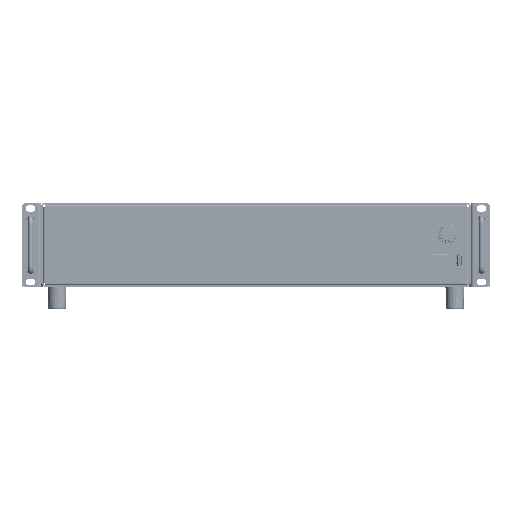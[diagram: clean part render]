
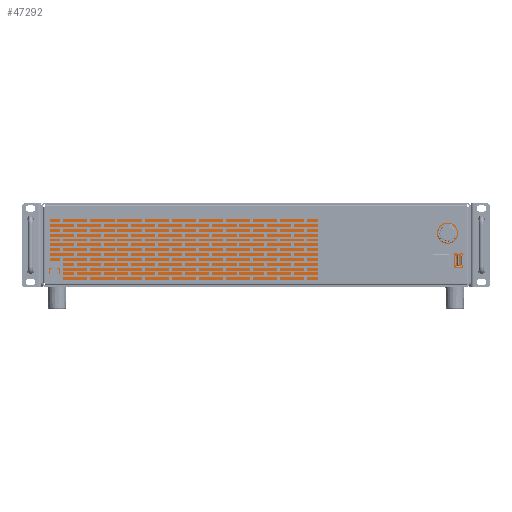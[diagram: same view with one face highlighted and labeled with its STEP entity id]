
A CAD part, front view. The second image highlights one B-rep face of the part: STEP entity #47292.
In plain terms, the highlighted planar face has unit normal (0, -1, 0).
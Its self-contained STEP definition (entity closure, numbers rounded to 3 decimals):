
#47292=ADVANCED_FACE('',(#98366),#98367,.F.);
#98366=FACE_OUTER_BOUND('',#200938,.T.);
#98367=PLANE('',#200939);
#200938=EDGE_LOOP('',(#342523,#342524,#342525,#342526));
#200939=AXIS2_PLACEMENT_3D('',#342527,#342528,#342529);
#342523=ORIENTED_EDGE('',*,*,#410295,.T.);
#342524=ORIENTED_EDGE('',*,*,#410291,.F.);
#342525=ORIENTED_EDGE('',*,*,#410296,.F.);
#342526=ORIENTED_EDGE('',*,*,#410288,.F.);
#342527=CARTESIAN_POINT('',(215.934,5.,43.25));
#342528=DIRECTION('',(0.0,1.0,0.0));
#342529=DIRECTION('',(0.0,0.0,1.0));
#410288=EDGE_CURVE('',#494690,#494685,#494692,.T.);
#410291=EDGE_CURVE('',#494695,#494697,#494698,.F.);
#410295=EDGE_CURVE('',#494690,#494697,#494703,.T.);
#410296=EDGE_CURVE('',#494685,#494695,#494704,.F.);
#494685=VERTEX_POINT('',#623067);
#494690=VERTEX_POINT('',#623074);
#494692=LINE('',#623077,#623078);
#494695=VERTEX_POINT('',#623081);
#494697=VERTEX_POINT('',#623084);
#494698=LINE('',#623085,#623086);
#494703=LINE('',#623093,#623094);
#494704=LINE('',#623095,#623096);
#623067=CARTESIAN_POINT('',(433.384,5.,83.5));
#623074=CARTESIAN_POINT('',(-1.516,5.,83.5));
#623077=CARTESIAN_POINT('',(215.934,5.,83.5));
#623078=VECTOR('',#682570,1.0);
#623081=CARTESIAN_POINT('',(433.384,5.,3.));
#623084=CARTESIAN_POINT('',(-1.516,5.,3.));
#623085=CARTESIAN_POINT('',(215.934,5.,3.));
#623086=VECTOR('',#682572,1.0);
#623093=CARTESIAN_POINT('',(-1.516,5.,43.25));
#623094=VECTOR('',#682575,1.0);
#623095=CARTESIAN_POINT('',(433.384,5.,43.25));
#623096=VECTOR('',#682576,1.0);
#682570=DIRECTION('',(1.0,0.0,0.0));
#682572=DIRECTION('',(1.0,0.0,0.0));
#682575=DIRECTION('',(0.0,0.0,-1.0));
#682576=DIRECTION('',(0.0,0.0,1.0));
